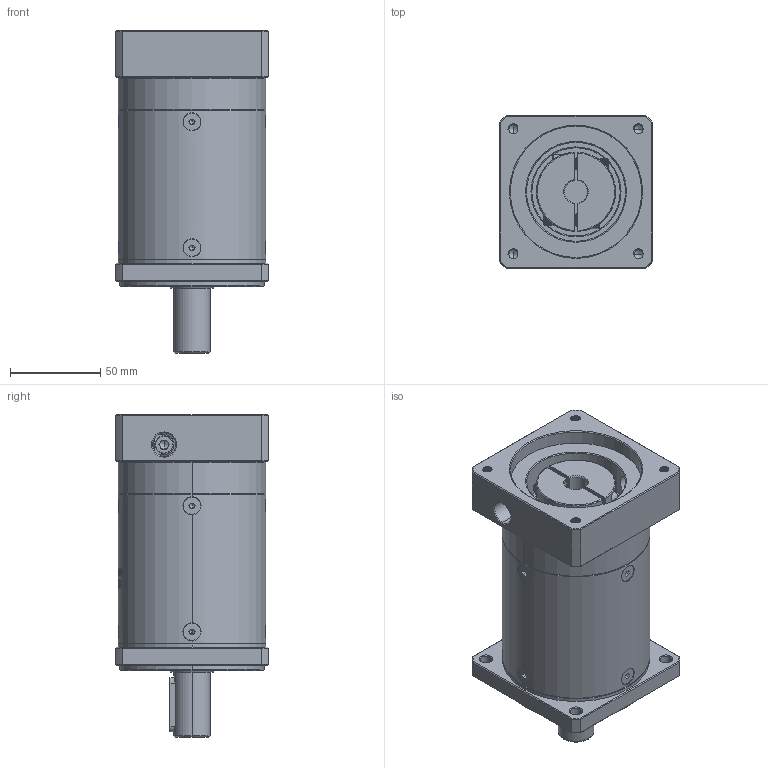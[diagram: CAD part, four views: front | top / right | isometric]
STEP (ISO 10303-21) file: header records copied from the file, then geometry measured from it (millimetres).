
FILE_DESCRIPTION (( 'STEP AP214' ), '1' );
FILE_NAME ('ZF080-D20-L3-P2-12.7-73-69.6X69.6-M6.step', '2023-08-19T05:29:41', ( '' ), ( '' ), 'SwSTEP 2.0', 'SolidWorks 2016', '' );
FILE_SCHEMA (( 'AUTOMOTIVE_DESIGN' ));
Length unit declared in the file: millimetre
Products named in the file (1): ZF080-D20-L3-P2-12.7-73-69.6X69.6-M6
Bounding box: 85 x 85 x 179 mm (x, y, z)
Volume: 750724.7 mm3; surface area: 99053.9 mm2
Topology: 13 solids, 13 shells, 2232 faces, 5845 edges, 3712 vertices
Faces by surface type: plane 1071, bspline 394, cylinder 390, cone 340, torus 37
Entity records: 119147 total; most frequent: CARTESIAN_POINT 44720, ORIENTED_EDGE 11630, DIRECTION 8627, EDGE_CURVE 5815, VERTEX_POINT 3712, LINE 3093, VECTOR 3093, AXIS2_PLACEMENT_3D 2767
